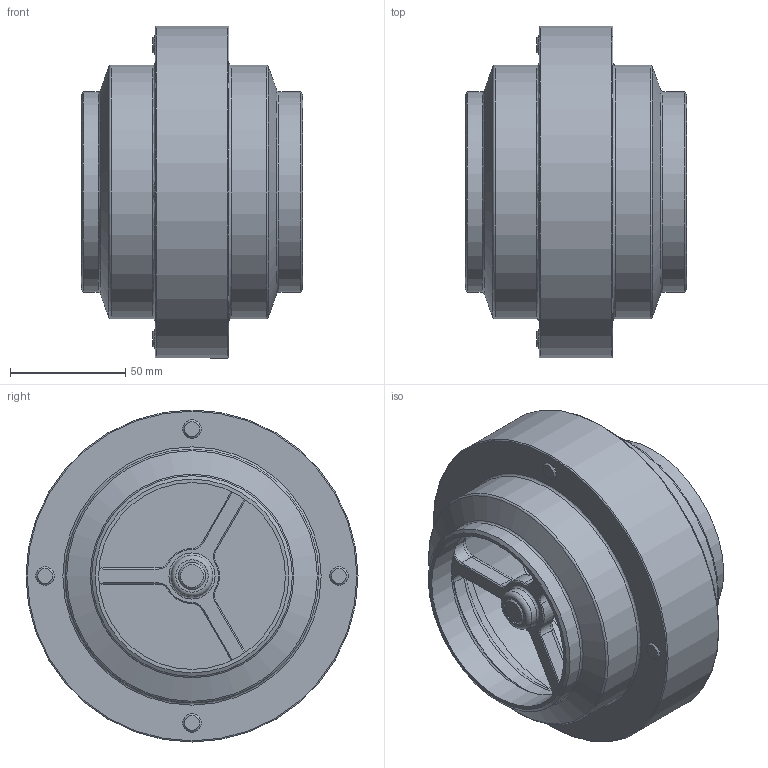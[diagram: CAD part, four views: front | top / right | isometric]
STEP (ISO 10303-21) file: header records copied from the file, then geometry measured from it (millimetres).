
FILE_DESCRIPTION((''),'2;1');
FILE_NAME('K:\2013 konstrukce\5xxxx\50800-ZPĚTNÝ VENTIL S-S\5080D-080.stp','2021-01-22T08:01:03',('konstrukce3'),(''),'Autodesk Inventor 2010','Autodesk Inventor 2010','');
FILE_SCHEMA(('AUTOMOTIVE_DESIGN { 1 0 10303 214 1 1 1 1 }'));
Length unit declared in the file: millimetre
Products named in the file (1): Součást8
Bounding box: 96 x 144 x 144 mm (x, y, z)
Volume: 469049.6 mm3; surface area: 117608.6 mm2
Topology: 5 solids, 5 shells, 245 faces, 530 edges, 316 vertices
Faces by surface type: plane 72, cylinder 53, cone 43, bspline 41, torus 36
Full cylindrical faces by diameter (mm): 8 x8, 12 x1, 13 x4, 18 x3, 73.5 x1, 75.5 x1, 81 x2, 83 x1, 87 x2, 105 x1, 107.5 x1, 110 x2, 115.5 x1, 144 x1
Entity records: 8392 total; most frequent: CARTESIAN_POINT 3329, DIRECTION 1040, ORIENTED_EDGE 824, AXIS2_PLACEMENT_3D 460, EDGE_CURVE 412, EDGE_LOOP 374, VERTEX_POINT 294, CIRCLE 255
